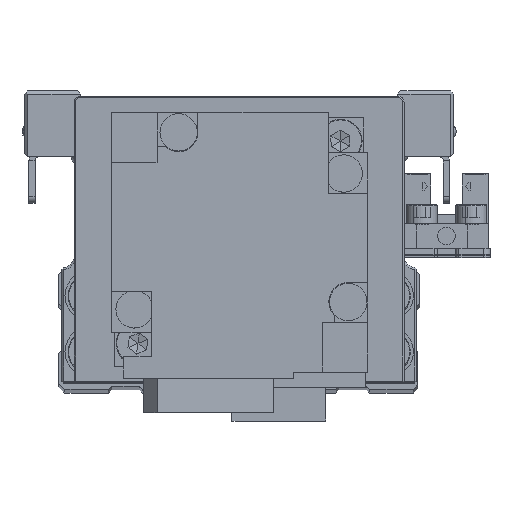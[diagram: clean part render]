
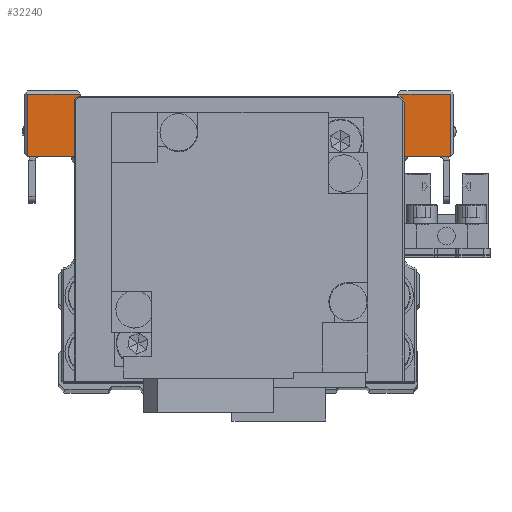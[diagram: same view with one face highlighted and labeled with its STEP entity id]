
A CAD part, top view. The second image highlights one B-rep face of the part: STEP entity #32240.
In plain terms, the highlighted planar face has unit normal (0, 0, 1) as drawn and (1, 0, 0) by its records, which use the part's own axes.
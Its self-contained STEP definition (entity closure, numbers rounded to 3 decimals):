
#387 = CARTESIAN_POINT ( 'NONE',  ( 25.5, 15., 34. ) ) ;
#612 = CARTESIAN_POINT ( 'NONE',  ( 25.5, 5., 34. ) ) ;
#655 = VERTEX_POINT ( 'NONE', #29952 ) ;
#835 = ORIENTED_EDGE ( 'NONE', *, *, #28073, .F. ) ;
#1223 = LINE ( 'NONE', #11599, #14597 ) ;
#1514 = EDGE_CURVE ( 'NONE', #655, #3988, #1223, .T. ) ;
#1663 = CARTESIAN_POINT ( 'NONE',  ( 25.5, 15., -34. ) ) ;
#1962 = EDGE_CURVE ( 'NONE', #10873, #25800, #32342, .T. ) ;
#3988 = VERTEX_POINT ( 'NONE', #9680 ) ;
#4069 = CARTESIAN_POINT ( 'NONE',  ( 25.5, 5., -16.5 ) ) ;
#4085 = CARTESIAN_POINT ( 'NONE',  ( 25.5, -6., -16.2 ) ) ;
#4157 = ORIENTED_EDGE ( 'NONE', *, *, #28996, .T. ) ;
#4287 = DIRECTION ( 'NONE',  ( 0., 0., -1. ) ) ;
#4812 = ORIENTED_EDGE ( 'NONE', *, *, #33003, .T. ) ;
#5016 = EDGE_CURVE ( 'NONE', #25800, #22010, #10889, .T. ) ;
#6087 = LINE ( 'NONE', #16474, #18090 ) ;
#6548 = CARTESIAN_POINT ( 'NONE',  ( 25.5, 5., 16.5 ) ) ;
#6697 = ORIENTED_EDGE ( 'NONE', *, *, #28540, .F. ) ;
#6767 = CARTESIAN_POINT ( 'NONE',  ( 25.5, 15., 34. ) ) ;
#6800 = AXIS2_PLACEMENT_3D ( 'NONE', #8511, #18894, #29283 ) ;
#6822 = EDGE_CURVE ( 'NONE', #29022, #23870, #6087, .T. ) ;
#7240 = CARTESIAN_POINT ( 'NONE',  ( 25.5, 10.5, -25.5 ) ) ;
#7257 = CARTESIAN_POINT ( 'NONE',  ( 25.5, 15., -25.5 ) ) ;
#7655 = DIRECTION ( 'NONE',  ( 0., -1., 0. ) ) ;
#7916 = CARTESIAN_POINT ( 'NONE',  ( 25.5, 5., -34.5 ) ) ;
#7923 = ORIENTED_EDGE ( 'NONE', *, *, #5016, .T. ) ;
#8511 = CARTESIAN_POINT ( 'NONE',  ( 25.5, 5., -16.5 ) ) ;
#8553 = EDGE_CURVE ( 'NONE', #655, #18854, #27428, .T. ) ;
#9014 = CARTESIAN_POINT ( 'NONE',  ( 25.5, 5., -34. ) ) ;
#9054 = EDGE_CURVE ( 'NONE', #9335, #3988, #22286, .T. ) ;
#9335 = VERTEX_POINT ( 'NONE', #13562 ) ;
#9337 = DIRECTION ( 'NONE',  ( 0., -0.707, -0.707 ) ) ;
#9409 = LINE ( 'NONE', #19801, #29909 ) ;
#9594 = ORIENTED_EDGE ( 'NONE', *, *, #11896, .T. ) ;
#9680 = CARTESIAN_POINT ( 'NONE',  ( 25.5, -6., 16.2 ) ) ;
#10770 = DIRECTION ( 'NONE',  ( 0., 0., 1. ) ) ;
#10873 = VERTEX_POINT ( 'NONE', #12361 ) ;
#10889 = LINE ( 'NONE', #21288, #13400 ) ;
#11599 = CARTESIAN_POINT ( 'NONE',  ( 25.5, -6., 16.5 ) ) ;
#11718 = VECTOR ( 'NONE', #10770, 1000. ) ;
#11896 = EDGE_CURVE ( 'NONE', #24386, #9335, #29875, .T. ) ;
#12361 = CARTESIAN_POINT ( 'NONE',  ( 25.5, 5., -34. ) ) ;
#12927 = CARTESIAN_POINT ( 'NONE',  ( 25.5, 10.5, 25.5 ) ) ;
#13400 = VECTOR ( 'NONE', #31678, 1000. ) ;
#13562 = CARTESIAN_POINT ( 'NONE',  ( 25.5, -5.7, 16.5 ) ) ;
#14339 = ORIENTED_EDGE ( 'NONE', *, *, #33647, .F. ) ;
#14466 = DIRECTION ( 'NONE',  ( 0., -1., 0. ) ) ;
#14482 = DIRECTION ( 'NONE',  ( 0., 0.707, -0.707 ) ) ;
#14597 = VECTOR ( 'NONE', #21997, 1000. ) ;
#16474 = CARTESIAN_POINT ( 'NONE',  ( 25.5, 10.5, 25.5 ) ) ;
#16498 = ORIENTED_EDGE ( 'NONE', *, *, #17571, .T. ) ;
#16839 = VERTEX_POINT ( 'NONE', #26020 ) ;
#16927 = DIRECTION ( 'NONE',  ( 0., -1., 0. ) ) ;
#17150 = VERTEX_POINT ( 'NONE', #6767 ) ;
#17245 = LINE ( 'NONE', #27629, #23310 ) ;
#17571 = EDGE_CURVE ( 'NONE', #16839, #10873, #17245, .T. ) ;
#17631 = DIRECTION ( 'NONE',  ( 0., 1., 0. ) ) ;
#17979 = VECTOR ( 'NONE', #17631, 1000. ) ;
#18090 = VECTOR ( 'NONE', #26859, 1000. ) ;
#18305 = DIRECTION ( 'NONE',  ( 0., 0., -1. ) ) ;
#18854 = VERTEX_POINT ( 'NONE', #19162 ) ;
#18894 = DIRECTION ( 'NONE',  ( -1., 0., 0. ) ) ;
#18961 = ORIENTED_EDGE ( 'NONE', *, *, #22171, .T. ) ;
#19162 = CARTESIAN_POINT ( 'NONE',  ( 25.5, -5.7, -16.5 ) ) ;
#19279 = VECTOR ( 'NONE', #7655, 1000. ) ;
#19395 = DIRECTION ( 'NONE',  ( 0., 1., 0. ) ) ;
#19801 = CARTESIAN_POINT ( 'NONE',  ( 25.5, 10.5, -25.5 ) ) ;
#20597 = LINE ( 'NONE', #30986, #19279 ) ;
#21104 = ORIENTED_EDGE ( 'NONE', *, *, #6822, .T. ) ;
#21179 = ORIENTED_EDGE ( 'NONE', *, *, #1514, .F. ) ;
#21288 = CARTESIAN_POINT ( 'NONE',  ( 25.5, 15., -25.5 ) ) ;
#21451 = FACE_OUTER_BOUND ( 'NONE', #30465, .T. ) ;
#21997 = DIRECTION ( 'NONE',  ( 0., 0., 1. ) ) ;
#22010 = VERTEX_POINT ( 'NONE', #7257 ) ;
#22046 = ORIENTED_EDGE ( 'NONE', *, *, #9054, .T. ) ;
#22171 = EDGE_CURVE ( 'NONE', #28301, #24386, #31248, .T. ) ;
#22286 = LINE ( 'NONE', #32676, #22298 ) ;
#22298 = VECTOR ( 'NONE', #9337, 1000. ) ;
#23310 = VECTOR ( 'NONE', #4287, 1000. ) ;
#23716 = LINE ( 'NONE', #387, #11718 ) ;
#23870 = VERTEX_POINT ( 'NONE', #27691 ) ;
#23911 = VERTEX_POINT ( 'NONE', #30595 ) ;
#24100 = ORIENTED_EDGE ( 'NONE', *, *, #8553, .T. ) ;
#24273 = VECTOR ( 'NONE', #14466, 1000. ) ;
#24312 = CARTESIAN_POINT ( 'NONE',  ( 25.5, 5., 16.5 ) ) ;
#24386 = VERTEX_POINT ( 'NONE', #24312 ) ;
#25800 = VERTEX_POINT ( 'NONE', #1663 ) ;
#26020 = CARTESIAN_POINT ( 'NONE',  ( 25.5, 5., -16.5 ) ) ;
#26155 = VECTOR ( 'NONE', #14482, 1000. ) ;
#26859 = DIRECTION ( 'NONE',  ( 0., 1., 0. ) ) ;
#27412 = LINE ( 'NONE', #4069, #24273 ) ;
#27428 = LINE ( 'NONE', #4085, #26155 ) ;
#27550 = VECTOR ( 'NONE', #18305, 1000. ) ;
#27629 = CARTESIAN_POINT ( 'NONE',  ( 25.5, 5., -34.5 ) ) ;
#27691 = CARTESIAN_POINT ( 'NONE',  ( 25.5, 15., 25.5 ) ) ;
#28073 = EDGE_CURVE ( 'NONE', #29022, #23911, #9409, .T. ) ;
#28125 = VECTOR ( 'NONE', #16927, 1000. ) ;
#28301 = VERTEX_POINT ( 'NONE', #612 ) ;
#28540 = EDGE_CURVE ( 'NONE', #23911, #22010, #30574, .T. ) ;
#28996 = EDGE_CURVE ( 'NONE', #17150, #28301, #20597, .T. ) ;
#29022 = VERTEX_POINT ( 'NONE', #12927 ) ;
#29283 = DIRECTION ( 'NONE',  ( 0., 0., 1. ) ) ;
#29875 = LINE ( 'NONE', #6548, #28125 ) ;
#29909 = VECTOR ( 'NONE', #30195, 1000. ) ;
#29952 = CARTESIAN_POINT ( 'NONE',  ( 25.5, -6., -16.2 ) ) ;
#30102 = VECTOR ( 'NONE', #19395, 1000. ) ;
#30195 = DIRECTION ( 'NONE',  ( 0., 0., -1. ) ) ;
#30465 = EDGE_LOOP ( 'NONE', ( #21104, #4812, #4157, #18961, #9594, #22046, #21179, #24100, #14339, #16498, #31599, #7923, #6697, #835 ) ) ;
#30574 = LINE ( 'NONE', #7240, #17979 ) ;
#30595 = CARTESIAN_POINT ( 'NONE',  ( 25.5, 10.5, -25.5 ) ) ;
#30986 = CARTESIAN_POINT ( 'NONE',  ( 25.5, 5., 34. ) ) ;
#31248 = LINE ( 'NONE', #7916, #27550 ) ;
#31599 = ORIENTED_EDGE ( 'NONE', *, *, #1962, .T. ) ;
#31678 = DIRECTION ( 'NONE',  ( 0., 0., 1. ) ) ;
#31839 = PLANE ( 'NONE',  #6800 ) ;
#32240 = ADVANCED_FACE ( 'NONE', ( #21451 ), #31839, .F. ) ;
#32342 = LINE ( 'NONE', #9014, #30102 ) ;
#32676 = CARTESIAN_POINT ( 'NONE',  ( 25.5, -6., 16.2 ) ) ;
#33003 = EDGE_CURVE ( 'NONE', #23870, #17150, #23716, .T. ) ;
#33647 = EDGE_CURVE ( 'NONE', #16839, #18854, #27412, .T. ) ;
